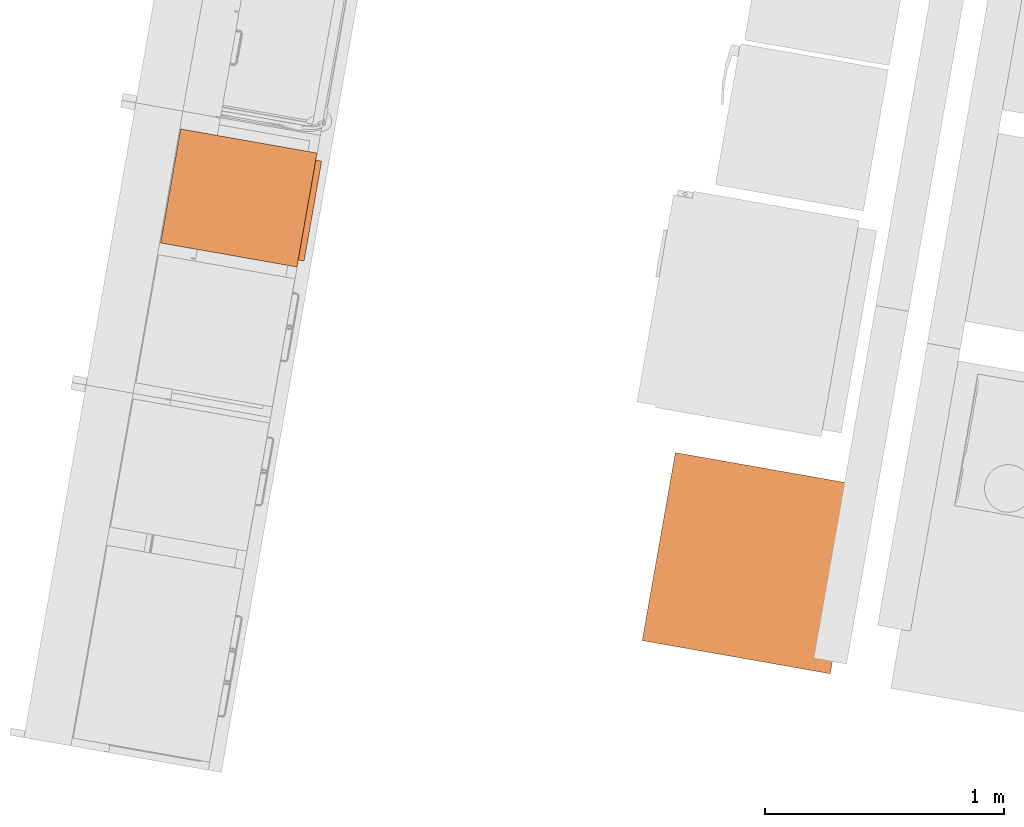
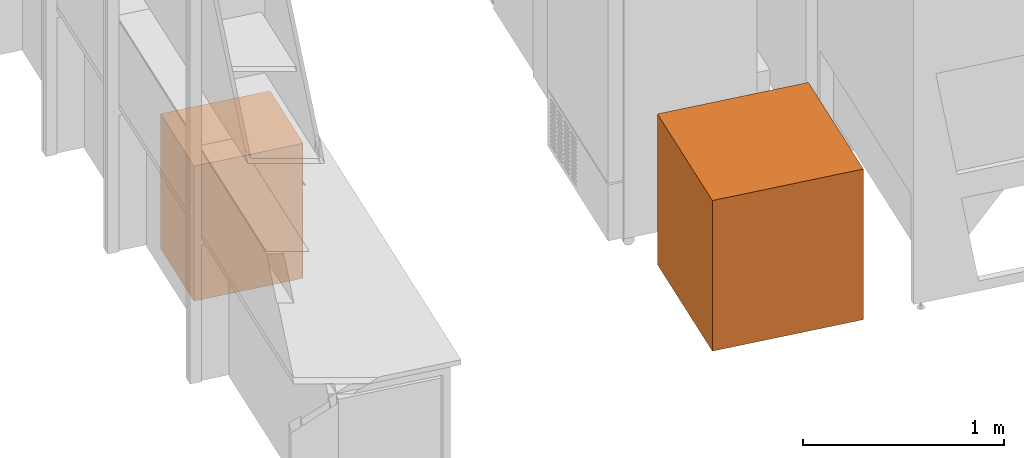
# One storey, part 38 of 43: 2 proxies.
"""IFC2X3 building model written with IfcOpenShell, lengths in metres."""

import ifcopenshell
import ifcopenshell.guid

model = None  # the IFC model being written
_history = None  # IfcOwnerHistory: only IFC2X3 demands one
_inside = {}  # id of a spatial element -> (the spatial element, [elements in it])
_under = {}  # id of a project, library or spatial element -> (it, [spatial elements below it])
_declared = {}  # id of a project -> (the project, [libraries it declares])
_typed = {}  # id of a type object -> (the type object, [elements of that type])
_made_of = {}  # id of a material, layer set ... -> (it, [elements and type objects made of it])


def new_model(schema):
    """Start an empty IFC model of exactly this schema.

    Asked for "IFC4X3", IfcOpenShell would pick the latest addendum, in which some entities
    have other attributes; the version numbers below select the first issue.
    IFC2X3 requires an IfcOwnerHistory on every rooted entity: one is made here for all.
    """
    global model, _history
    if schema == "IFC4X3":
        model = ifcopenshell.file(schema_version=(4, 3, 0, 0))
    else:
        model = ifcopenshell.file(schema=schema)
    _inside.clear()
    _under.clear()
    _declared.clear()
    _typed.clear()
    _made_of.clear()
    _history = None
    if model.schema == "IFC2X3":
        org = make("IfcOrganization", Name="unknown")
        user = make(
            "IfcPersonAndOrganization",
            ThePerson=make("IfcPerson", FamilyName="unknown"),
            TheOrganization=org,
        )
        app = make(
            "IfcApplication",
            ApplicationDeveloper=org,
            Version="unknown",
            ApplicationFullName="unknown",
            ApplicationIdentifier="unknown",
        )
        _history = make(
            "IfcOwnerHistory",
            OwningUser=user,
            OwningApplication=app,
            ChangeAction="ADDED",
            CreationDate=0,
        )
    return model


def make(cls, **values):
    """One entity of the class cls with the attributes given. An attribute that is None is left unset."""
    return model.create_entity(
        cls, **{name: value for name, value in values.items() if value is not None}
    )


def entity(cls, *values):
    """Any entity or typed value of the class cls, its attributes in the order of the schema. None: left unset."""
    e = model.create_entity(cls)
    for i, value in enumerate(values):
        if value is not None:
            e[i] = value
    return e


def rooted(cls, **values):
    """An entity with a GlobalId (a new one), such as an element, a storey or a relation."""
    return make(cls, GlobalId=ifcopenshell.guid.new(), OwnerHistory=_history, **values)


def si_unit(unit_type, name, prefix=None):
    """IfcSIUnit, for example si_unit("LENGTHUNIT", "METRE", prefix="MILLI")."""
    return make("IfcSIUnit", UnitType=unit_type, Prefix=prefix, Name=name)


def converted_unit(unit_type, name, factor, base, dimensions=None, offset=None):
    """IfcConversionBasedUnit, such as the inch: factor (a typed value) times the base unit."""
    return make(
        "IfcConversionBasedUnit"
        if offset is None
        else "IfcConversionBasedUnitWithOffset",
        ConversionOffset=offset,
        Dimensions=None
        if dimensions is None
        else entity("IfcDimensionalExponents", *dimensions),
        UnitType=unit_type,
        Name=name,
        ConversionFactor=make(
            "IfcMeasureWithUnit", ValueComponent=factor, UnitComponent=base
        ),
    )


def derived_unit(unit_type, elements):
    """IfcDerivedUnit: a product of units, each with its exponent."""
    return make(
        "IfcDerivedUnit",
        Elements=[
            make("IfcDerivedUnitElement", Unit=unit, Exponent=power)
            for unit, power in elements
        ],
        UnitType=unit_type,
    )


def assignment(units):
    """IfcUnitAssignment: the units of a project."""
    return None if units is None else make("IfcUnitAssignment", Units=units)


def point(xyz):
    """IfcCartesianPoint."""
    return None if xyz is None else make("IfcCartesianPoint", Coordinates=xyz)


def direction(xyz):
    """IfcDirection."""
    return None if xyz is None else make("IfcDirection", DirectionRatios=xyz)


def frame(location, z_axis=None, x_axis=None):
    """IfcAxis2Placement3D, a coordinate frame: its origin and axes. An axis left out is left unset."""
    return make(
        "IfcAxis2Placement3D",
        Location=point(location),
        Axis=direction(z_axis),
        RefDirection=direction(x_axis),
    )


def origin():
    """The frame at (0, 0, 0) with its axes left unset."""
    return frame((0.0, 0.0, 0.0))


def place(relative_to, where):
    """IfcLocalPlacement: puts the frame where relative to a parent placement (None: the world)."""
    return make(
        "IfcLocalPlacement", PlacementRelTo=relative_to, RelativePlacement=where
    )


def context(
    kind, dimensions, precision=None, world=None, true_north=None, identifier=None
):
    """IfcGeometricRepresentationContext, for example the 3D "Model" context."""
    return make(
        "IfcGeometricRepresentationContext",
        ContextIdentifier=identifier,
        ContextType=kind,
        CoordinateSpaceDimension=dimensions,
        Precision=precision,
        WorldCoordinateSystem=world,
        TrueNorth=true_north,
    )


def subcontext(parent, identifier, kind, view, scale=None):
    """IfcGeometricRepresentationSubContext, for example "Body" below "Model"."""
    return make(
        "IfcGeometricRepresentationSubContext",
        ContextIdentifier=identifier,
        ContextType=kind,
        ParentContext=parent,
        TargetScale=scale,
        TargetView=view,
    )


def project(units=None, contexts=None):
    """IfcProject with its units and contexts."""
    return rooted(
        "IfcProject",
        Name="project",
        RepresentationContexts=contexts,
        UnitsInContext=assignment(units),
    )


def spatial(cls, under=None, at=None, **own):
    """A site, building, storey or space (cls), placed at a placement, below another one or the project."""
    s = rooted(cls, ObjectPlacement=at, **own)
    if under is not None:
        _under.setdefault(under.id(), (under, []))[1].append(s)
    return s


def faces_of(points, faces, orient=None, outer=None):
    """IfcFace entities. A face is a list of loops; a loop is a list of indices into points, from 0.

    orient and outer hold one flag for each loop. By default every Orientation is true, the
    first loop of a face is its IfcFaceOuterBound and the others are IfcFaceBound.
    """
    made = []
    for i, loops in enumerate(faces):
        bounds = []
        for j, loop in enumerate(loops):
            is_outer = j == 0 if outer is None else outer[i][j]
            bounds.append(
                make(
                    "IfcFaceOuterBound" if is_outer else "IfcFaceBound",
                    Bound=make("IfcPolyLoop", Polygon=[points[k] for k in loop]),
                    Orientation=True if orient is None else orient[i][j],
                )
            )
        made.append(make("IfcFace", Bounds=bounds))
    return made


def face_set(faces, orient=None, outer=None):
    """The faces of one IfcConnectedFaceSet. surface_model builds it on its shared points."""
    return ("IfcConnectedFaceSet", faces, orient, outer)


def faceted_brep(points, faces, orient=None, outer=None, voids=None):
    """IfcFacetedBrep: a solid bounded by flat faces; with voids (closed shells), ...WithVoids."""
    shared = [point(p) for p in points]
    hull = make("IfcClosedShell", CfsFaces=faces_of(shared, faces, orient, outer))
    if voids is None:
        return make("IfcFacetedBrep", Outer=hull)
    return make(
        "IfcFacetedBrepWithVoids",
        Outer=hull,
        Voids=[
            make(cls, CfsFaces=faces_of(shared, fs, o, b)) for cls, fs, o, b in voids
        ],
    )


def surface_model(cls, points, shells):
    """IfcFaceBasedSurfaceModel or IfcShellBasedSurfaceModel (cls): surfaces that need not close."""
    shared = [point(p) for p in points]
    made = [make(c, CfsFaces=faces_of(shared, fs, o, b)) for c, fs, o, b in shells]
    if cls == "IfcFaceBasedSurfaceModel":
        return make(cls, FbsmFaces=made)
    return make(cls, SbsmBoundary=made)


def shape(context_of_items, identifier, shape_type, items):
    """IfcShapeRepresentation: the items that make up one representation, for example the "Body"."""
    return make(
        "IfcShapeRepresentation",
        ContextOfItems=context_of_items,
        RepresentationIdentifier=identifier,
        RepresentationType=shape_type,
        Items=items,
    )


def source(mapping_origin, context_of_items, identifier, shape_type, items):
    """IfcRepresentationMap: a shape defined once, which mapped items show again and again."""
    return make(
        "IfcRepresentationMap",
        MappingOrigin=mapping_origin,
        MappedRepresentation=shape(context_of_items, identifier, shape_type, items),
    )


def transform(
    local_origin,
    x_axis=None,
    y_axis=None,
    z_axis=None,
    scale=None,
    scale2=None,
    scale3=None,
    uniform=True,
):
    """IfcCartesianTransformationOperator3D, or its non-uniform kind. x_axis, y_axis, z_axis: its Axis1, 2, 3."""
    if uniform:
        return make(
            "IfcCartesianTransformationOperator3D",
            Axis1=direction(x_axis),
            Axis2=direction(y_axis),
            LocalOrigin=point(local_origin),
            Scale=scale,
            Axis3=direction(z_axis),
        )
    return make(
        "IfcCartesianTransformationOperator3DnonUniform",
        Axis1=direction(x_axis),
        Axis2=direction(y_axis),
        LocalOrigin=point(local_origin),
        Scale=scale,
        Axis3=direction(z_axis),
        Scale2=scale2,
        Scale3=scale3,
    )


def mapped(mapping_source, mapping_target):
    """IfcMappedItem: shows the shape of a source again, moved by a transform."""
    return make(
        "IfcMappedItem", MappingSource=mapping_source, MappingTarget=mapping_target
    )


def material(Name=None, Category=None):
    """IfcMaterial."""
    return make("IfcMaterial", Name=Name, Category=Category)


def made_of(thing, what):
    """Note that an element or type object is made of a material, layer set ...; save() writes the relation."""
    if what is not None:
        _made_of.setdefault(what.id(), (what, []))[1].append(thing)
    return thing


def type_object(cls, material=None, **own):
    """A type object (cls), such as IfcWallType, which elements share."""
    return made_of(rooted(cls, **own), material)


def type_shapes(of_type, sources):
    """Give a type object the sources (RepresentationMaps) that its elements show as mapped items."""
    of_type.RepresentationMaps = sources


def element(
    cls,
    number,
    at=None,
    inside=None,
    cuts=None,
    type_object=None,
    material=None,
    context=None,
    identifier="Body",
    shape_type=None,
    held_by="IfcProductDefinitionShape",
    body=None,
    shapes=None,
    **own,
):
    """One element of the class cls, such as IfcWall. Its Tag is "e" and its number.

    at: its placement. inside: the storey or other place that contains it. cuts: it is an
    opening in that element (IfcRelVoidsElement). A single representation is given by context,
    identifier, shape_type and body (its items); several are given by shapes. held_by: the class
    of the entity that holds the representations. save() writes the other relations.
    """
    e = rooted(cls, Tag="e%d" % number, ObjectPlacement=at, **own)
    if body is not None:
        shapes = [shape(context, identifier, shape_type, body)]
    if shapes is not None:
        e.Representation = make(held_by, Representations=shapes)
    if inside is not None:
        _inside.setdefault(inside.id(), (inside, []))[1].append(e)
    if cuts is not None:
        rooted(
            "IfcRelVoidsElement", RelatingBuildingElement=cuts, RelatedOpeningElement=e
        )
    if type_object is not None:
        _typed.setdefault(type_object.id(), (type_object, []))[1].append(e)
    return made_of(e, material)


def aggregate(whole, parts):
    """IfcRelAggregates: a whole, such as a stair, and the parts it consists of."""
    return rooted("IfcRelAggregates", RelatingObject=whole, RelatedObjects=parts)


def save(model, path):
    """Write the relations noted so far, then the file.

    IfcRelAggregates (storeys below a building ...), IfcRelContainedInSpatialStructure (elements
    in a storey), IfcRelDefinesByType, IfcRelAssociatesMaterial and IfcRelDeclares: one each for
    every whole, place, type object, material and project.
    """
    for whole, parts in _under.values():
        aggregate(whole, parts)
    for where, things in _inside.values():
        rooted(
            "IfcRelContainedInSpatialStructure",
            RelatedElements=things,
            RelatingStructure=where,
        )
    for kind, things in _typed.values():
        rooted("IfcRelDefinesByType", RelatedObjects=things, RelatingType=kind)
    for what, things in _made_of.values():
        rooted("IfcRelAssociatesMaterial", RelatedObjects=things, RelatingMaterial=what)
    for by, libraries in _declared.values():
        rooted("IfcRelDeclares", RelatingContext=by, RelatedDefinitions=libraries)
    model.write(path)


model = new_model("IFC2X3")

# Units and contexts
model_context = context("Model", 3, precision=1e-05, world=origin(), true_north=direction((6.12303176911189e-17, 1.0)))
body_context = subcontext(model_context, "Body", "Model", "MODEL_VIEW")
ifc_project = project(units=[si_unit("LENGTHUNIT", "METRE"), si_unit("AREAUNIT", "SQUARE_METRE"), si_unit("VOLUMEUNIT", "CUBIC_METRE"), converted_unit("PLANEANGLEUNIT", "DEGREE", entity("IfcRatioMeasure", 0.0174532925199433), si_unit("PLANEANGLEUNIT", "RADIAN"), dimensions=[0, 0, 0, 0, 0, 0, 0]), si_unit("MASSUNIT", "GRAM", prefix="KILO"), derived_unit("MASSDENSITYUNIT", [(si_unit("MASSUNIT", "GRAM", prefix="KILO"), 1), (si_unit("LENGTHUNIT", "METRE"), -3)]), derived_unit("MOMENTOFINERTIAUNIT", [(si_unit("LENGTHUNIT", "METRE"), 4)]), si_unit("TIMEUNIT", "SECOND"), si_unit("FREQUENCYUNIT", "HERTZ"), si_unit("THERMODYNAMICTEMPERATUREUNIT", "DEGREE_CELSIUS"), derived_unit("THERMALTRANSMITTANCEUNIT", [(si_unit("MASSUNIT", "GRAM", prefix="KILO"), 1), (si_unit("THERMODYNAMICTEMPERATUREUNIT", "KELVIN"), -1), (si_unit("TIMEUNIT", "SECOND"), -3)]), derived_unit("VOLUMETRICFLOWRATEUNIT", [(si_unit("LENGTHUNIT", "METRE"), 3), (si_unit("TIMEUNIT", "SECOND"), -1)]), si_unit("ELECTRICCURRENTUNIT", "AMPERE"), si_unit("ELECTRICVOLTAGEUNIT", "VOLT"), si_unit("POWERUNIT", "WATT"), si_unit("FORCEUNIT", "NEWTON", prefix="KILO"), si_unit("ILLUMINANCEUNIT", "LUX"), si_unit("LUMINOUSFLUXUNIT", "LUMEN"), si_unit("LUMINOUSINTENSITYUNIT", "CANDELA"), derived_unit("USERDEFINED", [(si_unit("MASSUNIT", "GRAM", prefix="KILO"), -1), (si_unit("LENGTHUNIT", "METRE"), -2), (si_unit("TIMEUNIT", "SECOND"), 3), (si_unit("LUMINOUSFLUXUNIT", "LUMEN"), 1)]), derived_unit("LINEARVELOCITYUNIT", [(si_unit("LENGTHUNIT", "METRE"), 1), (si_unit("TIMEUNIT", "SECOND"), -1)]), si_unit("PRESSUREUNIT", "PASCAL"), derived_unit("USERDEFINED", [(si_unit("LENGTHUNIT", "METRE"), -2), (si_unit("MASSUNIT", "GRAM", prefix="KILO"), 1), (si_unit("TIMEUNIT", "SECOND"), -2)]), derived_unit("LINEARFORCEUNIT", [(si_unit("MASSUNIT", "GRAM", prefix="KILO"), 1), (si_unit("LENGTHUNIT", "METRE"), 1), (si_unit("TIMEUNIT", "SECOND"), -2), (si_unit("LENGTHUNIT", "METRE"), -1)]), derived_unit("PLANARFORCEUNIT", [(si_unit("MASSUNIT", "GRAM", prefix="KILO"), 1), (si_unit("LENGTHUNIT", "METRE"), 1), (si_unit("TIMEUNIT", "SECOND"), -2), (si_unit("LENGTHUNIT", "METRE"), -2)])], contexts=[model_context])

# Site, building, storey
site_placement = place(None, origin())
site = spatial("IfcSite", under=ifc_project, at=site_placement, Name="Default", CompositionType="ELEMENT")
building_placement = place(site_placement, origin())
building = spatial("IfcBuilding", under=site, at=building_placement, CompositionType="ELEMENT")
storey_placement = place(building_placement, frame((0.0, 0.0, 3.0)))
storey = spatial("IfcBuildingStorey", under=building, at=storey_placement, Name="01 OG", CompositionType="ELEMENT", Elevation=3.0)

# Proxies
ifc_material_1 = material(Name="dh_Stellfläche")
building_element_proxy_type_1 = type_object("IfcBuildingElementProxyType", Name="dh_Gerät_Stellfläche Bestand:Nutzergerät", PredefinedType="NOTDEFINED", material=ifc_material_1)
shared_shape_1 = source(origin(), body_context, "Body", "SurfaceModel", [
    surface_model("IfcFaceBasedSurfaceModel", [(-0.271781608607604, -0.559257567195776, 0.920000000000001), (-0.31148896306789, -0.458414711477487, 0.920000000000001), (-0.349813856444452, -0.559257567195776, 0.920000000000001), (-0.347944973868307, -0.559999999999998, 0.920000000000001), (-0.335400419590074, -0.527460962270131, 0.920000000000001), (-0.286195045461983, -0.527460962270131, 0.920000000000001), (-0.273650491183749, -0.559999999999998, 0.920000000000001), (-0.286988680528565, -0.525182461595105, 0.920000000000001), (-0.334606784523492, -0.525182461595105, 0.920000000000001), (-0.310772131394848, -0.462485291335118, 0.920000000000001), (-0.194875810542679, -0.543922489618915, 0.920000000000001), (-0.194875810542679, -0.559999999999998, 0.920000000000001), (-0.192674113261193, -0.559999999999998, 0.920000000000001), (-0.192674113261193, -0.492822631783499, 0.920000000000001), (-0.194875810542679, -0.492822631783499, 0.920000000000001), (-0.194875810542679, -0.540031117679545, 0.920000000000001), (-0.208751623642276, -0.553778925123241, 0.920000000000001), (-0.2178400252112, -0.558361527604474, 0.920000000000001), (-0.231587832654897, -0.558361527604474, 0.920000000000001), (-0.24042022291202, -0.553906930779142, 0.920000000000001), (-0.245079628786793, -0.540287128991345, 0.920000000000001), (-0.245079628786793, -0.492822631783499, 0.920000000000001), (-0.247204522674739, -0.492822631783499, 0.920000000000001), (-0.247204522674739, -0.541413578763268, 0.920000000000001), (-0.242340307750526, -0.556646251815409, 0.920000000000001), (-0.232125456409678, -0.561638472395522, 0.920000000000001), (-0.217302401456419, -0.561638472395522, 0.920000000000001), (-0.207343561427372, -0.556774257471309, 0.920000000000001), (-0.12419108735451, -0.561638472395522, 0.920000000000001), (-0.12419108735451, -0.559564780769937, 0.920000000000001), (-0.133407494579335, -0.559564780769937, 0.920000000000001), (-0.142239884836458, -0.555084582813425, 0.920000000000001), (-0.146899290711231, -0.541387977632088, 0.920000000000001), (-0.146899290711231, -0.494665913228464, 0.920000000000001), (-0.128901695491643, -0.494665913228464, 0.920000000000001), (-0.128901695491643, -0.492541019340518, 0.920000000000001), (-0.146899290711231, -0.492541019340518, 0.920000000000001), (-0.146899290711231, -0.460053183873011, 0.920000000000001), (-0.149075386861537, -0.460053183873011, 0.920000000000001), (-0.149075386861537, -0.492541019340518, 0.920000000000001), (-0.162234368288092, -0.492541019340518, 0.920000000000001), (-0.162234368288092, -0.494665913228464, 0.920000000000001), (-0.149075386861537, -0.494665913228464, 0.920000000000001), (-0.149075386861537, -0.541643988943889, 0.920000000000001), (-0.144159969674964, -0.556697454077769, 0.920000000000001), (-0.133945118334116, -0.561638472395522, 0.920000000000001), (-0.0404241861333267, -0.546917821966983, 0.920000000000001), (-0.0355087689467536, -0.532222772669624, 0.920000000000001), (-0.0355087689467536, -0.522366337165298, 0.920000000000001), (-0.0404241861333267, -0.507671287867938, 0.920000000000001), (-0.050255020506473, -0.497686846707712, 0.920000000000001), (-0.0601626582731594, -0.492822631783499, 0.920000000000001), (-0.0749601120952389, -0.492822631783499, 0.920000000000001), (-0.0849189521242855, -0.497686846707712, 0.920000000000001), (-0.0946729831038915, -0.507671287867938, 0.920000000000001), (-0.0995884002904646, -0.522366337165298, 0.920000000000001), (-0.0995884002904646, -0.532222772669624, 0.920000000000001), (-0.0946729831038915, -0.546917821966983, 0.920000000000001), (-0.0849189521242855, -0.55685106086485, 0.920000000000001), (-0.0749601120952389, -0.561638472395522, 0.920000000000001), (-0.0601626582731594, -0.561638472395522, 0.920000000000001), (-0.050255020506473, -0.55685106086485, 0.920000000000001), (-0.0423698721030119, -0.545125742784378, 0.920000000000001), (-0.0515862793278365, -0.554290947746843, 0.920000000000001), (-0.0606746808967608, -0.558873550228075, 0.920000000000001), (-0.0744224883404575, -0.558873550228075, 0.920000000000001), (-0.0835364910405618, -0.554290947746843, 0.920000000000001), (-0.0928297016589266, -0.545125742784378, 0.920000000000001), (-0.0974123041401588, -0.531249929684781, 0.920000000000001), (-0.0974123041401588, -0.522007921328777, 0.920000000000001), (-0.0928297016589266, -0.50813210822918, 0.920000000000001), (-0.0835364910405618, -0.499043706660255, 0.920000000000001), (-0.0744224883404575, -0.494384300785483, 0.920000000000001), (-0.0606746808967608, -0.494384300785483, 0.920000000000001), (-0.0515862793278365, -0.499043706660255, 0.920000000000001), (-0.0423698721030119, -0.50813210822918, 0.920000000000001), (-0.0377104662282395, -0.522007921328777, 0.920000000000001), (-0.0377104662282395, -0.531249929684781, 0.920000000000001), (0.0528407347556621, -0.547199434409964, 0.920000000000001), (0.0511766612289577, -0.545535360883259, 0.920000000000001), (0.0418066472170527, -0.554982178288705, 0.920000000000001), (0.0327182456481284, -0.559564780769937, 0.920000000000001), (0.0189704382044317, -0.559564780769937, 0.920000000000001), (0.00985643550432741, -0.554982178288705, 0.920000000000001), (0.000563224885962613, -0.54579137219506, 0.920000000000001), (-0.00401937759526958, -0.531889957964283, 0.920000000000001), (-0.00401937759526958, -0.522647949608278, 0.920000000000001), (0.000563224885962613, -0.508720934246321, 0.920000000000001), (0.00985643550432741, -0.499606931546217, 0.920000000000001), (0.0189704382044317, -0.494947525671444, 0.920000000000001), (0.0327182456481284, -0.494947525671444, 0.920000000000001), (0.0418066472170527, -0.499606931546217, 0.920000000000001), (0.0511766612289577, -0.509002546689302, 0.920000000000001), (0.0528407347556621, -0.507389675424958, 0.920000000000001), (0.0431379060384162, -0.497686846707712, 0.920000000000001), (0.0332302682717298, -0.492822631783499, 0.920000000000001), (0.0184328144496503, -0.492822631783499, 0.920000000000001), (0.00847397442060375, -0.497686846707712, 0.920000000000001), (-0.00128005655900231, -0.507671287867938, 0.920000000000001), (-0.00619547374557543, -0.522366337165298, 0.920000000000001), (-0.00619547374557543, -0.532222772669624, 0.920000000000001), (-0.00128005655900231, -0.546917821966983, 0.920000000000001), (0.00847397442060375, -0.55685106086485, 0.920000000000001), (0.0184328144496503, -0.561638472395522, 0.920000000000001), (0.0332302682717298, -0.561638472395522, 0.920000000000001), (0.0431379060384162, -0.55685106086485, 0.920000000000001), (0.0870438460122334, -0.559999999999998, 0.920000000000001), (0.089168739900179, -0.559999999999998, 0.920000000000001), (0.089168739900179, -0.460053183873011, 0.920000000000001), (0.0870438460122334, -0.460053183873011, 0.920000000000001), (0.180334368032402, -0.548914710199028, 0.920000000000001), (0.180334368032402, -0.559999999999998, 0.920000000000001), (0.182536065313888, -0.559999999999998, 0.920000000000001), (0.182536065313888, -0.493923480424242, 0.920000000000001), (0.180334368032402, -0.493923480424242, 0.920000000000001), (0.180334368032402, -0.505597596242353, 0.920000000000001), (0.172577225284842, -0.497686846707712, 0.920000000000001), (0.162669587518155, -0.492822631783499, 0.920000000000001), (0.147872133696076, -0.492822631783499, 0.920000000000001), (0.137913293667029, -0.497686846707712, 0.920000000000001), (0.128159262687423, -0.507671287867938, 0.920000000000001), (0.12324384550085, -0.522366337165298, 0.920000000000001), (0.12324384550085, -0.532222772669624, 0.920000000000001), (0.128159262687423, -0.546917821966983, 0.920000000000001), (0.137913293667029, -0.55685106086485, 0.920000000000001), (0.147872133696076, -0.561638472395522, 0.920000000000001), (0.162669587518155, -0.561638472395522, 0.920000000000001), (0.172577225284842, -0.55685106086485, 0.920000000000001), (0.180334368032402, -0.508004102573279, 0.920000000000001), (0.180334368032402, -0.545253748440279, 0.920000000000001), (0.171245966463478, -0.554290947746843, 0.920000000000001), (0.162157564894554, -0.558873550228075, 0.920000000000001), (0.148409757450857, -0.558873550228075, 0.920000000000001), (0.139295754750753, -0.554290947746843, 0.920000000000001), (0.130002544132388, -0.545125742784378, 0.920000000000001), (0.125419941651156, -0.531249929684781, 0.920000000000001), (0.125419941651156, -0.522007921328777, 0.920000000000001), (0.130002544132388, -0.50813210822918, 0.920000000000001), (0.139295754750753, -0.499043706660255, 0.920000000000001), (0.148409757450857, -0.494384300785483, 0.920000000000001), (0.162157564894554, -0.494384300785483, 0.920000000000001), (0.171245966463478, -0.499043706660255, 0.920000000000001), (0.273727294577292, -0.548914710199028, 0.920000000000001), (0.273727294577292, -0.559999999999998, 0.920000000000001), (0.275928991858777, -0.559999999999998, 0.920000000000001), (0.275928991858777, -0.493923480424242, 0.920000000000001), (0.273727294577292, -0.493923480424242, 0.920000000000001), (0.273727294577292, -0.505597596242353, 0.920000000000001), (0.265970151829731, -0.497686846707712, 0.920000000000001), (0.256062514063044, -0.492822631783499, 0.920000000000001), (0.241265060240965, -0.492822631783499, 0.920000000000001), (0.231306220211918, -0.497686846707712, 0.920000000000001), (0.221552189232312, -0.507671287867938, 0.920000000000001), (0.216636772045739, -0.522366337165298, 0.920000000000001), (0.216636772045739, -0.532222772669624, 0.920000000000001), (0.221552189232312, -0.546917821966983, 0.920000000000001), (0.231306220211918, -0.55685106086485, 0.920000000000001), (0.241265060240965, -0.561638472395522, 0.920000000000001), (0.256062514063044, -0.561638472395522, 0.920000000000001), (0.265970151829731, -0.55685106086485, 0.920000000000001), (0.273727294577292, -0.508004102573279, 0.920000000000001), (0.273727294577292, -0.545253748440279, 0.920000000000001), (0.264638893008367, -0.554290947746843, 0.920000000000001), (0.255550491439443, -0.558873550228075, 0.920000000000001), (0.241802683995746, -0.558873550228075, 0.920000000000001), (0.232688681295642, -0.554290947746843, 0.920000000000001), (0.223395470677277, -0.545125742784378, 0.920000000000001), (0.218812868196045, -0.531249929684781, 0.920000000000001), (0.218812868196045, -0.522007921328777, 0.920000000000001), (0.223395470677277, -0.50813210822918, 0.920000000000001), (0.232688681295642, -0.499043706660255, 0.920000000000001), (0.241802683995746, -0.494384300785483, 0.920000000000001), (0.255550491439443, -0.494384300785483, 0.920000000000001), (0.264638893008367, -0.499043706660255, 0.920000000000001), (0.319527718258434, -0.559999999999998, 0.920000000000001), (0.32170381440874, -0.559999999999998, 0.920000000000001), (0.32170381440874, -0.494051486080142, 0.920000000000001), (0.339701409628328, -0.494051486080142, 0.920000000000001), (0.339701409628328, -0.491926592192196, 0.920000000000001), (0.32170381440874, -0.491926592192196, 0.920000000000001), (0.32170381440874, -0.478767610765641, 0.920000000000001), (0.326363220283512, -0.465096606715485, 0.920000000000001), (0.335195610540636, -0.460616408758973, 0.920000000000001), (0.34441201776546, -0.460616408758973, 0.920000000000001), (0.34441201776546, -0.458414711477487, 0.920000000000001), (0.334657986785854, -0.458414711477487, 0.920000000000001), (0.324443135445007, -0.46348373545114, 0.920000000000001), (0.319527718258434, -0.478511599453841, 0.920000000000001), (0.319527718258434, -0.491926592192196, 0.920000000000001), (0.306368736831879, -0.491926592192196, 0.920000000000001), (0.306368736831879, -0.494051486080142, 0.920000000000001), (0.319527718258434, -0.494051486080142, 0.920000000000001), (0.4, 0.0, 0.915), (0.4, -0.8, 0.915), (-0.4, -0.8, 0.915), (-0.4, 0.0, 0.915), (0.4, 0.0, 0.0), (0.4, -0.8, 0.0), (-0.4, -0.8, 0.0), (-0.4, 0.0, 0.0)], [face_set([[[0, 1, 2, 3, 4, 5, 6], [7, 8, 9]]]), face_set([[[10, 11, 12, 13, 14, 15, 16, 17, 18, 19, 20, 21, 22, 23, 24, 25, 26, 27]]]), face_set([[[28, 29, 30, 31, 32, 33, 34, 35, 36, 37, 38, 39, 40, 41, 42, 43, 44, 45]]]), face_set([[[46, 47, 48, 49, 50, 51, 52, 53, 54, 55, 56, 57, 58, 59, 60, 61], [62, 63, 64, 65, 66, 67, 68, 69, 70, 71, 72, 73, 74, 75, 76, 77]]]), face_set([[[78, 79, 80, 81, 82, 83, 84, 85, 86, 87, 88, 89, 90, 91, 92, 93, 94, 95, 96, 97, 98, 99, 100, 101, 102, 103, 104, 105]]]), face_set([[[106, 107, 108, 109]]]), face_set([[[110, 111, 112, 113, 114, 115, 116, 117, 118, 119, 120, 121, 122, 123, 124, 125, 126, 127], [128, 129, 130, 131, 132, 133, 134, 135, 136, 137, 138, 139, 140, 141]]]), face_set([[[142, 143, 144, 145, 146, 147, 148, 149, 150, 151, 152, 153, 154, 155, 156, 157, 158, 159], [160, 161, 162, 163, 164, 165, 166, 167, 168, 169, 170, 171, 172, 173]]]), face_set([[[174, 175, 176, 177, 178, 179, 180, 181, 182, 183, 184, 185, 186, 187, 188, 189, 190, 191]]]), face_set([[[192, 193, 194, 195]], [[196, 197, 198, 199]], [[195, 192, 196, 199]], [[194, 195, 199, 198]], [[193, 197, 198, 194]], [[192, 193, 197, 196]]])]),
])
type_shapes(building_element_proxy_type_1, [shared_shape_1])
proxy_1_placement = place(storey_placement, frame((25.5916652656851, 7.78721957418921, 0.0), z_axis=(0.0, 0.0, 1.0), x_axis=(-0.173648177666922, -0.984807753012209, 0.0)))
element("IfcBuildingElementProxy", 1, at=proxy_1_placement, inside=storey, type_object=building_element_proxy_type_1, material=ifc_material_1, Name="dh_Gerät_Stellfläche Bestand:Nutzergerät", ObjectType="dh_Gerät_Stellfläche Bestand:Nutzergerät", context=body_context, shape_type="MappedRepresentation", body=[
    mapped(shared_shape_1, transform((0.0, 0.0, 0.0), scale=1.0)),
])
ifc_material_2 = material(Name="dh_Chrom")
building_element_proxy_type_2 = type_object("IfcBuildingElementProxyType", Name="dh_UB_EIS:dh_UB_EIS", PredefinedType="NOTDEFINED", material=ifc_material_2)
shared_shape_2 = source(origin(), body_context, "Body", "Brep", [
    faceted_brep([(0.212499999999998, -0.575000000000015, 0.562499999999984), (0.212499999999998, -0.575000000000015, 0.789999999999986), (0.212499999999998, -0.58, 0.789999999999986), (0.212499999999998, -0.58, 0.564571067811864), (0.212499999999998, -0.605175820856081, 0.539395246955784), (0.212499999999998, -0.601640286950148, 0.535859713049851), (-0.212500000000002, -0.575000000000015, 0.562499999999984), (-0.212500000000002, -0.601640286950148, 0.535859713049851), (-0.212500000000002, -0.605175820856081, 0.539395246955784), (-0.212500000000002, -0.58, 0.564571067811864), (-0.212500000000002, -0.58, 0.789999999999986), (-0.212500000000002, -0.575000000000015, 0.789999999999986)], [[[0, 1, 2, 3, 4, 5]], [[6, 7, 8, 9, 10, 11]], [[1, 0, 6, 11]], [[2, 1, 11, 10]], [[3, 2, 10, 9]], [[4, 3, 9, 8]], [[5, 4, 8, 7]], [[0, 5, 7, 6]]]),
    faceted_brep([(0.212499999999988, -0.58, 0.557499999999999), (0.212499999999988, -0.575000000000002, 0.557499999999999), (-0.212500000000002, -0.575000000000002, 0.5575), (-0.212500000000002, -0.58, 0.5575), (0.212499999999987, -0.58, 0.324999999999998), (-0.212500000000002, -0.58, 0.324999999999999), (-0.212500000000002, -0.575000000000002, 0.324999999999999), (0.212499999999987, -0.575000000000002, 0.324999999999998)], [[[0, 1, 2, 3]], [[4, 5, 6, 7]], [[1, 0, 4, 7]], [[2, 1, 7, 6]], [[3, 2, 6, 5]], [[0, 3, 5, 4]]]),
    faceted_brep([(0.212499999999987, -0.58, 0.324999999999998), (0.212499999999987, -0.575000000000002, 0.324999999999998), (-0.212500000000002, -0.575000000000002, 0.325), (-0.212500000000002, -0.58, 0.325), (0.212499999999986, -0.58, 0.0999999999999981), (-0.212500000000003, -0.58, 0.0999999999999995), (-0.212500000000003, -0.575000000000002, 0.0999999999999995), (0.212499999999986, -0.575000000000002, 0.0999999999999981)], [[[0, 1, 2, 3]], [[4, 5, 6, 7]], [[1, 0, 4, 7]], [[2, 1, 7, 6]], [[3, 2, 6, 5]], [[0, 3, 5, 4]]]),
    faceted_brep([(0.2375, -0.58, 0.0999999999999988), (0.241035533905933, -0.578535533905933, 0.0999999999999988), (0.2425, -0.575, 0.0999999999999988), (0.2425, 0.0, 0.0999999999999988), (-0.2425, 0.0, 0.0999999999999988), (-0.2425, -0.575, 0.0999999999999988), (-0.241035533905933, -0.578535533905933, 0.0999999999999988), (-0.2375, -0.58, 0.0999999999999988), (-0.2375, -0.58, 0.0), (-0.241035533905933, -0.578535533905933, 0.0), (-0.2425, -0.575, 0.0), (-0.2425, 0.0, 0.0), (0.2425, 0.0, 0.0), (0.2425, -0.575, 0.0), (0.241035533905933, -0.578535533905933, 0.0), (0.2375, -0.58, 0.0), (-0.2425, -0.575, 0.0390384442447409), (-0.2425, -0.575, 0.0609615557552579), (-0.241140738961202, -0.578427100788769, 0.050000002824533), (-0.2375, -0.58, 0.0499999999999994), (0.2375, -0.58, 0.0390384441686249), (0.2375, -0.58, 0.0609615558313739), (0.240927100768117, -0.578640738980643, 0.0500000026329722), (0.2425, -0.575, 0.0499999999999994)], [[[0, 1, 2, 3, 4, 5, 6, 7]], [[8, 9, 10, 11, 12, 13, 14, 15]], [[4, 3, 12, 11]], [[4, 11, 10, 16, 17, 5]], [[18, 9, 19]], [[19, 7, 6]], [[9, 8, 19]], [[18, 17, 16]], [[9, 18, 16]], [[6, 5, 17]], [[16, 10, 9]], [[18, 6, 17]], [[6, 18, 19]], [[7, 19, 8, 15, 20, 21, 0]], [[22, 14, 23]], [[1, 0, 21]], [[20, 15, 14]], [[20, 22, 21]], [[22, 1, 21]], [[14, 13, 23]], [[2, 1, 23]], [[14, 22, 20]], [[1, 22, 23]], [[3, 2, 23, 13, 12]]]),
    faceted_brep([(-0.2425, 0.0, 0.820000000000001), (-0.242499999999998, -0.575, 0.820000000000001), (-0.24103553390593, -0.578535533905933, 0.820000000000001), (-0.237499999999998, -0.58, 0.820000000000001), (0.237500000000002, -0.58, 0.819999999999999), (0.241035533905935, -0.578535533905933, 0.819999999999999), (0.242500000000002, -0.575, 0.819999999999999), (0.2425, 0.0, 0.819999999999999), (0.212499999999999, -0.58, 0.789999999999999), (-0.212500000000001, -0.58, 0.790000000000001), (-0.2125, -0.0300000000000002, 0.790000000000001), (0.2125, -0.0300000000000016, 0.789999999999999), (-0.242500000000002, 0.0, 0.0999999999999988), (-0.242500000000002, -0.575, 0.0999999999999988), (-0.2425, -0.575, 0.13903844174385), (-0.2425, -0.575, 0.178076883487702), (-0.2425, -0.575, 0.22528844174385), (-0.2425, -0.575, 0.272499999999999), (-0.2425, -0.575, 0.315624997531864), (-0.2425, -0.575, 0.358749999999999), (-0.2425, -0.575, 0.401875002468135), (-0.2425, -0.575, 0.444999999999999), (-0.2425, -0.575, 0.488124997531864), (-0.2425, -0.575, 0.53125), (-0.2425, -0.575, 0.574375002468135), (-0.2425, -0.575, 0.6175), (-0.2425, -0.575, 0.660624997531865), (-0.2425, -0.575, 0.70375), (-0.2425, -0.575, 0.746875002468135), (-0.2425, -0.575, 0.790000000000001), (-0.24103553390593, -0.578535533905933, 0.790000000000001), (-0.237499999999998, -0.58, 0.790000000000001), (0.212499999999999, -0.58, 0.0999999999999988), (0.2375, -0.58, 0.0999999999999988), (0.2375, -0.58, 0.139038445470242), (0.2375, -0.58, 0.178076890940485), (0.2375, -0.58, 0.217115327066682), (0.2375, -0.58, 0.256153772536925), (0.2375, -0.58, 0.303365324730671), (0.2375, -0.58, 0.350576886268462), (0.2375, -0.58, 0.397788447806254), (0.2375, -0.58, 0.444999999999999), (0.2375, -0.58, 0.48812500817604), (0.2375, -0.58, 0.531250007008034), (0.2375, -0.58, 0.574375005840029), (0.2375, -0.58, 0.617500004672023), (0.2375, -0.58, 0.660625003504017), (0.2375, -0.58, 0.703750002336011), (0.2375, -0.58, 0.750961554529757), (0.237500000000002, -0.58, 0.789999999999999), (-0.237499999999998, -0.58, 0.750961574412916), (-0.237499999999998, -0.58, 0.723269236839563), (-0.237499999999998, -0.58, 0.69557689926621), (-0.237499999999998, -0.58, 0.648365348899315), (-0.237499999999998, -0.58, 0.624759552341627), (-0.237499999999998, -0.58, 0.60115377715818), (-0.237499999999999, -0.58, 0.553942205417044), (-0.237499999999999, -0.58, 0.506730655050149), (-0.237499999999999, -0.58, 0.459519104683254), (-0.237499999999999, -0.58, 0.412307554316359), (-0.237499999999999, -0.58, 0.373269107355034), (-0.237499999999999, -0.58, 0.334230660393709), (-0.237499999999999, -0.58, 0.295192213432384), (-0.237499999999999, -0.58, 0.256153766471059), (-0.2375, -0.58, 0.217115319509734), (-0.2375, -0.58, 0.178076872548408), (-0.2375, -0.58, 0.139038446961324), (-0.2375, -0.58, 0.0999999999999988), (-0.212500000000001, -0.58, 0.0999999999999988), (0.241035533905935, -0.578535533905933, 0.789999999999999), (0.241035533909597, -0.578535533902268, 0.731442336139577), (0.242500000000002, -0.575, 0.789999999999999), (0.2425, -0.575, 0.750961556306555), (0.2425, -0.575, 0.711923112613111), (0.2425, -0.575, 0.672884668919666), (0.2425, -0.575, 0.633846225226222), (0.2425, -0.575, 0.594807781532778), (0.2425, -0.575, 0.555769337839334), (0.2425, -0.575, 0.516730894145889), (0.2425, -0.575, 0.477692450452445), (0.2425, -0.575, 0.430480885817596), (0.2425, -0.575, 0.383269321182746), (0.2425, -0.575, 0.336057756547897), (0.2425, -0.575, 0.288846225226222), (0.2425, -0.575, 0.241634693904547), (0.2425, -0.575, 0.218028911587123), (0.2425, -0.575, 0.194423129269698), (0.2425, -0.575, 0.16673078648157), (0.2425, -0.575, 0.139038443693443), (0.2425, -0.575, 0.0999999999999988), (0.242499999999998, 0.0, 0.0999999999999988), (-0.241035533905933, -0.578535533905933, 0.0999999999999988), (0.241035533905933, -0.578535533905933, 0.0999999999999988), (0.2125, -0.0300000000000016, 0.0999999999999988), (-0.2125, -0.0300000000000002, 0.0999999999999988), (-0.2412695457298, -0.578284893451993, 0.375402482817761), (-0.241325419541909, -0.578219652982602, 0.42343750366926), (-0.240928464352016, -0.578639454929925, 0.612956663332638), (-0.240709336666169, -0.578834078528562, 0.581196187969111), (-0.241280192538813, -0.578272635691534, 0.682187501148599), (-0.241053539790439, -0.578517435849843, 0.653667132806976), (-0.24098267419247, -0.578587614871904, 0.520193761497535), (-0.240771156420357, -0.578781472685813, 0.489709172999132), (-0.241035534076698, -0.578535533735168, 0.158557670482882), (-0.241035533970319, -0.578535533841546, 0.188316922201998), (-0.240804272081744, -0.578752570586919, 0.236634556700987), (-0.241100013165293, -0.5784698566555, 0.344997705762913), (-0.24099465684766, -0.578575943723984, 0.265725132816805), (-0.241068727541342, -0.578502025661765, 0.129278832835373), (-0.240649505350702, -0.578883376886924, 0.709368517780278), (-0.240681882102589, -0.578856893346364, 0.314711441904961), (-0.240948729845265, -0.578620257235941, 0.737115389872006), (-0.241600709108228, -0.577860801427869, 0.763448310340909), (-0.241339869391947, -0.578202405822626, 0.550505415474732), (-0.241032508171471, -0.578538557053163, 0.45214241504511), (0.241035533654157, -0.578535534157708, 0.15855766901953), (0.240992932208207, -0.578577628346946, 0.187706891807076), (0.240635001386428, -0.578895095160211, 0.328569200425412), (0.241130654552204, -0.578437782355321, 0.299841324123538), (0.240784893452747, -0.578769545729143, 0.514597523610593), (0.240969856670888, -0.578600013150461, 0.545002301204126), (0.241431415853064, -0.578089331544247, 0.454086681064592), (0.241002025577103, -0.578568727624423, 0.129278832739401), (0.241315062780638, -0.578231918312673, 0.653365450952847), (0.241074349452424, -0.578496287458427, 0.624330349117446), (0.241338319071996, -0.578204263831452, 0.261189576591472), (0.241109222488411, -0.578460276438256, 0.39341353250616), (0.24060760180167, -0.578916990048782, 0.422031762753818), (0.241399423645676, -0.578129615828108, 0.360289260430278), (0.241068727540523, -0.578502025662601, 0.760721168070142), (0.241108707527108, -0.578460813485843, 0.702748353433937), (0.241015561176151, -0.578555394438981, 0.229831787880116), (0.241356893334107, -0.578181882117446, 0.575288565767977), (0.24102201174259, -0.578549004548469, 0.482181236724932)], [[[0, 1, 2, 3, 4, 5, 6, 7]], [[8, 9, 10, 11]], [[1, 0, 12, 13, 14, 15, 16, 17, 18, 19, 20, 21, 22, 23, 24, 25, 26, 27, 28, 29]], [[1, 29, 30, 2]], [[31, 3, 2, 30]], [[8, 32, 33, 34, 35, 36, 37, 38, 39, 40, 41, 42, 43, 44, 45, 46, 47, 48, 49, 4, 3, 31, 50, 51, 52, 53, 54, 55, 56, 57, 58, 59, 60, 61, 62, 63, 64, 65, 66, 67, 68, 9]], [[4, 49, 69, 5]], [[47, 70, 48]], [[69, 71, 6, 5]], [[72, 70, 73]], [[7, 6, 71, 72, 73, 74, 75, 76, 77, 78, 79, 80, 81, 82, 83, 84, 85, 86, 87, 88, 89, 90]], [[0, 7, 90, 12]], [[68, 67, 91, 13, 12, 90, 89, 92, 33, 32, 93, 94]], [[95, 59, 96]], [[97, 24, 98]], [[55, 54, 97]], [[53, 99, 100]], [[57, 101, 102]], [[103, 65, 104]], [[105, 104, 64]], [[65, 103, 66]], [[60, 95, 106]], [[105, 107, 17]], [[15, 103, 104]], [[14, 108, 103]], [[22, 102, 101]], [[99, 109, 27]], [[62, 110, 107]], [[97, 98, 55]], [[28, 111, 112]], [[29, 28, 112]], [[99, 27, 26]], [[51, 111, 109]], [[31, 30, 112]], [[67, 66, 108]], [[13, 91, 108]], [[103, 108, 66]], [[99, 53, 52]], [[14, 103, 15]], [[17, 16, 105]], [[64, 63, 105]], [[16, 15, 104]], [[104, 65, 64]], [[13, 108, 14]], [[108, 91, 67]], [[50, 31, 112]], [[50, 111, 51]], [[27, 111, 28]], [[50, 112, 111]], [[29, 112, 30]], [[105, 63, 107]], [[104, 105, 16]], [[18, 110, 106]], [[61, 110, 62]], [[107, 63, 62]], [[107, 110, 17]], [[106, 110, 61]], [[110, 18, 17]], [[96, 21, 20]], [[18, 106, 19]], [[106, 61, 60]], [[59, 95, 60]], [[106, 95, 19]], [[20, 19, 95]], [[56, 113, 101]], [[96, 114, 21]], [[56, 98, 113]], [[99, 26, 100]], [[22, 114, 102]], [[109, 99, 52]], [[26, 25, 100]], [[100, 54, 53]], [[97, 100, 25]], [[100, 97, 54]], [[24, 97, 25]], [[113, 24, 23]], [[56, 55, 98]], [[24, 113, 98]], [[101, 113, 23]], [[22, 101, 23]], [[56, 101, 57]], [[114, 22, 21]], [[58, 57, 102]], [[51, 109, 52]], [[27, 109, 111]], [[95, 96, 20]], [[114, 59, 58]], [[59, 114, 96]], [[102, 114, 58]], [[10, 9, 68, 94]], [[11, 10, 94, 93]], [[8, 11, 93, 32]], [[34, 115, 35]], [[36, 35, 116]], [[117, 118, 82]], [[119, 120, 43]], [[79, 121, 80]], [[122, 115, 34]], [[123, 75, 74]], [[124, 75, 123]], [[116, 115, 87]], [[37, 125, 118]], [[76, 75, 124]], [[126, 80, 127]], [[80, 121, 127]], [[122, 88, 115]], [[82, 128, 117]], [[77, 120, 78]], [[116, 35, 115]], [[46, 124, 123]], [[129, 48, 70]], [[46, 123, 130]], [[89, 88, 122]], [[47, 130, 70]], [[49, 48, 129]], [[33, 92, 122]], [[71, 69, 129]], [[40, 128, 126]], [[126, 128, 81]], [[70, 130, 73]], [[87, 86, 85, 116]], [[129, 70, 72]], [[33, 122, 34]], [[122, 92, 89]], [[85, 84, 131]], [[125, 131, 84]], [[37, 131, 125]], [[131, 36, 116]], [[85, 131, 116]], [[37, 36, 131]], [[84, 83, 125]], [[125, 83, 118]], [[71, 129, 72]], [[129, 69, 49]], [[46, 130, 47]], [[74, 73, 130]], [[130, 123, 74]], [[124, 46, 45]], [[132, 77, 76]], [[132, 45, 44]], [[124, 45, 132]], [[77, 132, 120]], [[115, 88, 87]], [[124, 132, 76]], [[120, 44, 43]], [[44, 120, 132]], [[78, 120, 119]], [[41, 121, 133]], [[133, 78, 119]], [[43, 42, 119]], [[119, 42, 133]], [[133, 121, 79]], [[127, 121, 41]], [[41, 40, 127]], [[126, 127, 40]], [[128, 40, 39]], [[80, 126, 81]], [[117, 128, 39]], [[82, 81, 128]], [[39, 38, 117]], [[118, 117, 38]], [[133, 79, 78]], [[41, 133, 42]], [[118, 38, 37]], [[82, 118, 83]]]),
])
type_shapes(building_element_proxy_type_2, [shared_shape_2])
proxy_2_placement = place(storey_placement, frame((22.759053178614, 9.43665614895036, 0.0), z_axis=(0.0, 0.0, 1.0), x_axis=(0.173648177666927, 0.984807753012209, 0.0)))
element("IfcBuildingElementProxy", 2, at=proxy_2_placement, inside=storey, type_object=building_element_proxy_type_2, material=ifc_material_2, Name="dh_UB_EIS:dh_UB_EIS", ObjectType="dh_UB_EIS:dh_UB_EIS", context=body_context, shape_type="MappedRepresentation", body=[
    mapped(shared_shape_2, transform((0.0, 0.0, 0.0), scale=1.0)),
])

save(model, "model.ifc")
